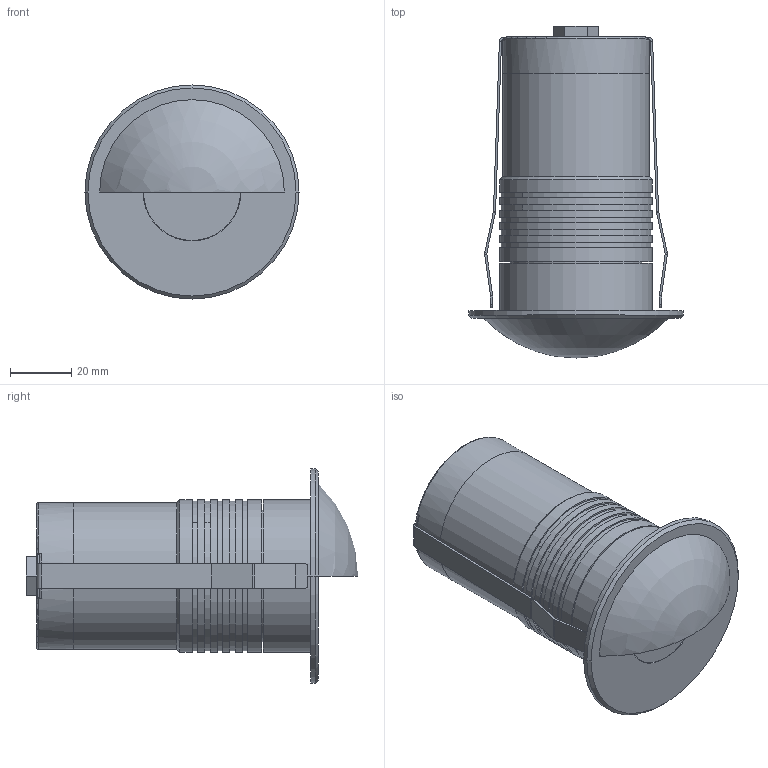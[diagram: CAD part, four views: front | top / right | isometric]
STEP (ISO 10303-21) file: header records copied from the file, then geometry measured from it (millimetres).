
FILE_DESCRIPTION((''),'2;1');
FILE_NAME('ASM0001_ASM','2025-07-08T',('Administrator'),(''),'CREO PARAMETRIC BY PTC INC, 2014190','CREO PARAMETRIC BY PTC INC, 2014190','');
FILE_SCHEMA(('CONFIG_CONTROL_DESIGN'));
Length unit declared in the file: millimetre
Products named in the file (13): 2I_; HOUGAI-2I; MIANGAI; KAHUANG; MUZUHE; 12A_1_114; PRT0001; 2I-0; 0-RING; 2I-1; YATAO; BOLI-0; ASM0001_ASM
Assembly tree (12 placements, depth 2):
  ASM0001_ASM
    2I_
    HOUGAI-2I
    MIANGAI
    KAHUANG
    MUZUHE
    12A_1_114
    PRT0001
    2I-0
    0-RING
    2I-1
    YATAO
    BOLI-0
Bounding box: 70 x 108.5 x 70 mm (x, y, z)
Volume: 109763.1 mm3; surface area: 70867.8 mm2
Topology: 12 solids, 12 shells, 398 faces, 972 edges, 625 vertices
Faces by surface type: plane 219, cylinder 145, cone 17, torus 10, bspline 6, sphere 1
Entity records: 13865 total; most frequent: CARTESIAN_POINT 3994, DIRECTION 2078, ORIENTED_EDGE 1942, EDGE_CURVE 971, AXIS2_PLACEMENT_3D 743, VERTEX_POINT 625, VECTOR 592, LINE 592
